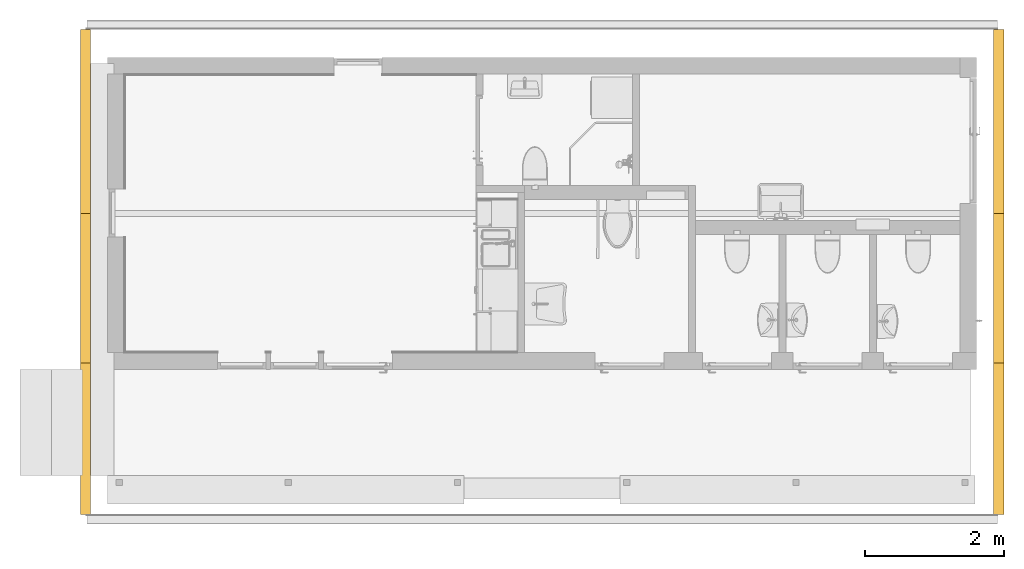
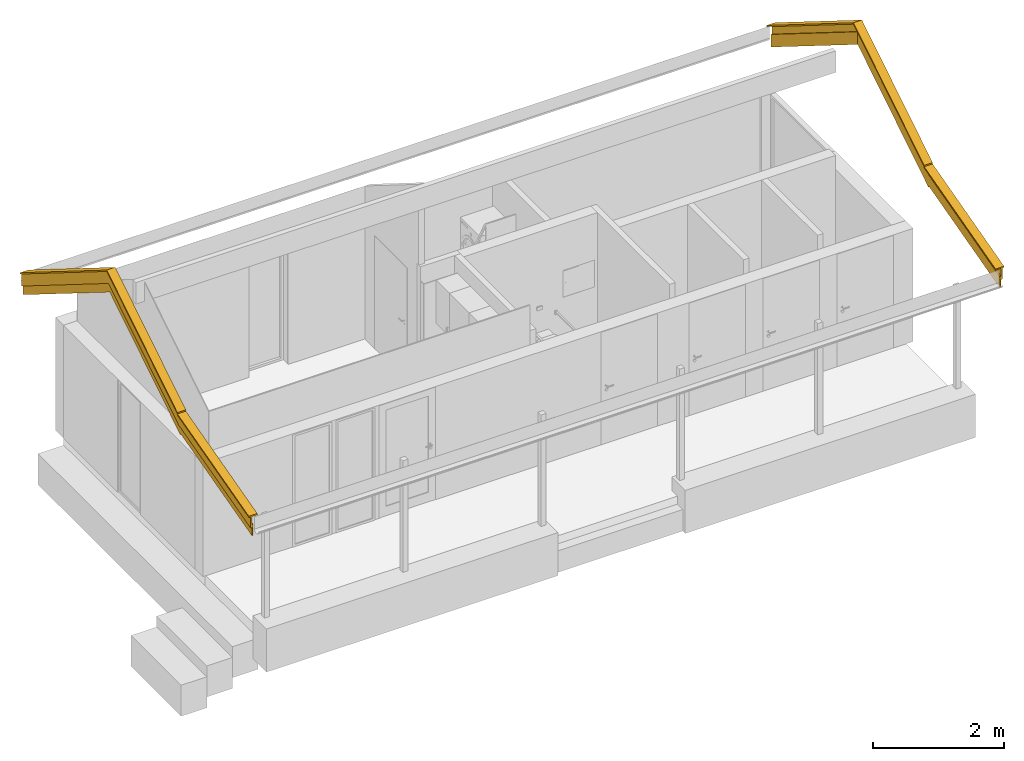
# One storey, part 8 of 15: 2 coverings.
"""IFC2X3 building model written with IfcOpenShell, lengths in millimetres."""

from ifc_helpers import new_model, entity, si_unit, converted_unit, direction, frame, origin, place, context, subcontext, project, spatial, faceted_brep, material, type_object, element, save


model = new_model("IFC2X3")

# Units and contexts
model_context = context("Model", 3, precision=0.01, world=origin(), true_north=direction((0.0, 1.0)))
body_context = subcontext(model_context, "Body", "Model", "MODEL_VIEW")
ifc_project = project(units=[si_unit("LENGTHUNIT", "METRE", prefix="MILLI"), si_unit("AREAUNIT", "SQUARE_METRE"), si_unit("VOLUMEUNIT", "CUBIC_METRE"), converted_unit("PLANEANGLEUNIT", "DEGREE", entity("IfcPlaneAngleMeasure", 0.017453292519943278), si_unit("PLANEANGLEUNIT", "RADIAN"), dimensions=[0, 0, 0, 0, 0, 0, 0])], contexts=[model_context])

# Site, building, storey
site_placement = place(None, origin())
site = spatial("IfcSite", under=ifc_project, at=site_placement, Name="Default", CompositionType="ELEMENT")
building_placement = place(site_placement, origin())
building = spatial("IfcBuilding", under=site, at=building_placement, CompositionType="ELEMENT")
storey_placement = place(building_placement, origin())
storey = spatial("IfcBuildingStorey", under=building, at=storey_placement, Name="Et. 1", CompositionType="ELEMENT", Elevation=0.0)

# Coverings
ifc_material = material(Name="Maling mørkegrå(1)")
covering_type = type_object("IfcCoveringType", Name="Fascia:Vindski", PredefinedType="NOTDEFINED")
covering_1_placement = place(storey_placement, frame((10916.567419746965, 9528.190261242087, 2148.6119620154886)))
element("IfcCovering", 1, at=covering_1_placement, inside=storey, type_object=covering_type, material=ifc_material, Name="Fascia:Vindski", PredefinedType="NOTDEFINED", context=body_context, shape_type="Brep", body=[
    faceted_brep([(13120.0, 4325.0, 2327.5826161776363), (13120.0, 4325.0, 2301.6406913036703), (13216.0, 4325.0, 2301.6406913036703), (13216.0, 4325.0, 2133.0181796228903), (13194.0, 4325.0, 2133.0181796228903), (13194.0, 4325.0, 1899.5408557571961), (13216.0, 4325.0, 1899.5408557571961), (13216.0, 4325.0, 2068.163367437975), (13238.0, 4325.0, 2068.163367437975), (13238.0, 4325.0, 2301.6406913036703), (13268.0, 4325.0, 2301.6406913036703), (13268.0, 4325.0, 2327.5826161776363), (13120.0, 6965.0, 677.9275271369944), (13268.0, 6965.0, 677.9275271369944), (13268.0, 6965.0, 651.9856022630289), (13238.0, 6965.0, 651.9856022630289), (13238.0, 6965.0, 418.5082783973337), (13216.0, 6965.0, 418.5082783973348), (13216.0, 6965.0, 249.8857667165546), (13194.0, 6965.0, 249.88576671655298), (13194.0, 6965.0, 483.3630905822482), (13216.0, 6965.0, 483.3630905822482), (13216.0, 6965.0, 651.9856022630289), (13120.0, 6965.0, 651.9856022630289)], [[[0, 1, 2, 3, 4, 5, 6, 7, 8, 9, 10, 11]], [[12, 13, 14, 15, 16, 17, 18, 19, 20, 21, 22, 23]], [[1, 0, 12, 23]], [[2, 1, 23, 22]], [[3, 2, 22, 21]], [[4, 3, 21, 20]], [[5, 4, 20, 19]], [[6, 5, 19, 18]], [[7, 6, 18, 17]], [[8, 7, 17, 16]], [[9, 8, 16, 15]], [[10, 9, 15, 14]], [[11, 10, 14, 13]], [[0, 11, 13, 12]]]),
    faceted_brep([(148.0, 2175.0, 984.1135095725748), (0.0, 2175.0, 984.1135095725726), (0.0, 2175.0, 958.1715846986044), (30.0, 2175.0, 958.1715846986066), (30.0, 2175.0, 724.6942608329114), (52.0, 2175.0, 724.6942608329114), (52.0, 2175.0, 556.0717491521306), (74.0, 2175.0, 556.0717491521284), (74.0, 2175.0, 789.5490730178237), (52.0, 2175.0, 789.5490730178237), (52.0, 2175.0, 958.1715846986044), (148.0, 2175.0, 958.1715846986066), (148.0, 4325.0, 2301.640691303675), (148.0, 4325.0, 2327.5826161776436), (52.0, 4325.0, 2301.6406913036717), (52.0, 4325.0, 2133.0181796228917), (74.0, 4325.0, 2133.018179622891), (74.0, 4325.0, 1899.5408557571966), (52.0, 4325.0, 1899.540855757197), (52.0, 4325.0, 2068.1633674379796), (30.0, 4325.0, 2068.1633674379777), (30.0, 4325.0, 2301.6406913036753), (0.0, 4325.0, 2301.6406913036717), (0.0, 4325.0, 2327.5826161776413), (148.0, 6965.0, 677.9275271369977), (148.0, 6965.0, 651.9856022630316), (52.0, 6965.0, 651.9856022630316), (52.0, 6965.0, 483.36309058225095), (74.0, 6965.0, 483.36309058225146), (74.0, 6965.0, 249.8857667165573), (52.0, 6965.0, 249.8857667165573), (52.0, 6965.0, 418.5082783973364), (30.0, 6965.0, 418.5082783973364), (30.0, 6965.0, 651.9856022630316), (0.0, 6965.0, 651.9856022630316), (0.0, 6965.0, 677.9275271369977)], [[[0, 1, 2, 3, 4, 5, 6, 7, 8, 9, 10, 11]], [[12, 13, 0, 11]], [[14, 12, 11, 10]], [[15, 14, 10, 9]], [[16, 15, 9, 8]], [[17, 16, 8, 7]], [[18, 17, 7, 6]], [[19, 18, 6, 5]], [[20, 19, 5, 4]], [[21, 20, 4, 3]], [[22, 21, 3, 2]], [[23, 22, 2, 1]], [[13, 23, 1, 0]], [[24, 25, 26, 27, 28, 29, 30, 31, 32, 33, 34, 35]], [[25, 24, 13, 12]], [[26, 25, 12, 14]], [[27, 26, 14, 15]], [[28, 27, 15, 16]], [[29, 28, 16, 17]], [[30, 29, 17, 18]], [[31, 30, 18, 19]], [[32, 31, 19, 20]], [[33, 32, 20, 21]], [[34, 33, 21, 22]], [[35, 34, 22, 23]], [[24, 35, 23, 13]]]),
    faceted_brep([(148.0, 2175.0, 958.5947470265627), (148.0, 2175.0, 935.8186710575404), (52.0, 2175.0, 935.8186710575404), (52.0, 2175.0, 787.7741772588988), (74.0, 2175.0, 787.7741772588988), (74.0, 2175.0, 582.7894935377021), (52.0, 2175.0, 582.7894935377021), (52.0, 2175.0, 730.8339873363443), (30.0, 2175.0, 730.8339873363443), (30.0, 2175.0, 935.8186710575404), (0.0, 2175.0, 935.8186710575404), (0.0, 2175.0, 958.5947470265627), (148.0, 0.0, 375.8052534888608), (0.0, 0.0, 375.8052534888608), (0.0, 0.0, 353.0291775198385), (30.0, 0.0, 353.0291775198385), (30.0, 0.0, 148.04449379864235), (52.0, 0.0, 148.04449379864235), (52.0, 0.0, 0.0), (74.0, 0.0, 0.0), (74.0, 0.0, 204.98468372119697), (52.0, 0.0, 204.98468372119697), (52.0, 0.0, 353.0291775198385), (148.0, 0.0, 353.0291775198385)], [[[0, 1, 2, 3, 4, 5, 6, 7, 8, 9, 10, 11]], [[12, 13, 14, 15, 16, 17, 18, 19, 20, 21, 22, 23]], [[1, 0, 12, 23]], [[2, 1, 23, 22]], [[3, 2, 22, 21]], [[4, 3, 21, 20]], [[5, 4, 20, 19]], [[6, 5, 19, 18]], [[7, 6, 18, 17]], [[8, 7, 17, 16]], [[9, 8, 16, 15]], [[10, 9, 15, 14]], [[11, 10, 14, 13]], [[0, 11, 13, 12]]]),
])
covering_2_placement = place(storey_placement, frame((24036.567419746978, 9528.190261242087, 2148.611962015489)))
element("IfcCovering", 2, at=covering_2_placement, inside=storey, type_object=covering_type, material=ifc_material, Name="Fascia:Vindski", PredefinedType="NOTDEFINED", context=body_context, shape_type="Brep", body=[
    faceted_brep([(0.0, 2175.0, 984.1135095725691), (0.0, 2175.0, 958.171584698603), (96.0, 2175.0, 958.171584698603), (96.0, 2175.0, 789.5490730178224), (74.0, 2175.0, 789.5490730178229), (74.0, 2175.0, 556.0717491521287), (96.0, 2175.0, 556.0717491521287), (96.0, 2175.0, 724.6942608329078), (118.0, 2175.0, 724.6942608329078), (118.0, 2175.0, 958.171584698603), (148.0, 2175.0, 958.171584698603), (148.0, 2175.0, 984.1135095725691), (0.0, 4325.0, 2327.582616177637), (148.0, 4325.0, 2327.582616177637), (148.0, 4325.0, 2301.6406913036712), (118.0, 4325.0, 2301.6406913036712), (118.0, 4325.0, 2068.163367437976), (96.0, 4325.0, 2068.163367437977), (96.0, 4325.0, 1899.5408557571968), (74.0, 4325.0, 1899.5408557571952), (74.0, 4325.0, 2133.0181796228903), (96.0, 4325.0, 2133.0181796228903), (96.0, 4325.0, 2301.6406913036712), (0.0, 4325.0, 2301.6406913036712)], [[[0, 1, 2, 3, 4, 5, 6, 7, 8, 9, 10, 11]], [[12, 13, 14, 15, 16, 17, 18, 19, 20, 21, 22, 23]], [[1, 0, 12, 23]], [[2, 1, 23, 22]], [[3, 2, 22, 21]], [[4, 3, 21, 20]], [[5, 4, 20, 19]], [[6, 5, 19, 18]], [[7, 6, 18, 17]], [[8, 7, 17, 16]], [[9, 8, 16, 15]], [[10, 9, 15, 14]], [[11, 10, 14, 13]], [[0, 11, 13, 12]]]),
    faceted_brep([(0.0, 0.0, 375.80525348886), (0.0, 0.0, 353.02917751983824), (96.0, 0.0, 353.02917751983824), (96.0, 0.0, 204.9846837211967), (74.0, 0.0, 204.9846837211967), (74.0, 0.0, 0.0), (96.0, 0.0, 0.0), (96.0, 0.0, 148.0444937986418), (118.0, 0.0, 148.0444937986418), (118.0, 0.0, 353.02917751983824), (148.0, 0.0, 353.02917751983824), (148.0, 0.0, 375.80525348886), (0.0, 2175.0, 958.5947470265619), (148.0, 2175.0, 958.5947470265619), (148.0, 2175.0, 935.8186710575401), (118.0, 2175.0, 935.8186710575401), (118.0, 2175.0, 730.833987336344), (96.0, 2175.0, 730.833987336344), (96.0, 2175.0, 582.7894935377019), (74.0, 2175.0, 582.7894935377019), (74.0, 2175.0, 787.7741772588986), (96.0, 2175.0, 787.7741772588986), (96.0, 2175.0, 935.8186710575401), (0.0, 2175.0, 935.8186710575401)], [[[0, 1, 2, 3, 4, 5, 6, 7, 8, 9, 10, 11]], [[12, 13, 14, 15, 16, 17, 18, 19, 20, 21, 22, 23]], [[1, 0, 12, 23]], [[2, 1, 23, 22]], [[3, 2, 22, 21]], [[4, 3, 21, 20]], [[5, 4, 20, 19]], [[6, 5, 19, 18]], [[7, 6, 18, 17]], [[8, 7, 17, 16]], [[9, 8, 16, 15]], [[10, 9, 15, 14]], [[11, 10, 14, 13]], [[0, 11, 13, 12]]]),
])

save(model, "model.ifc")
